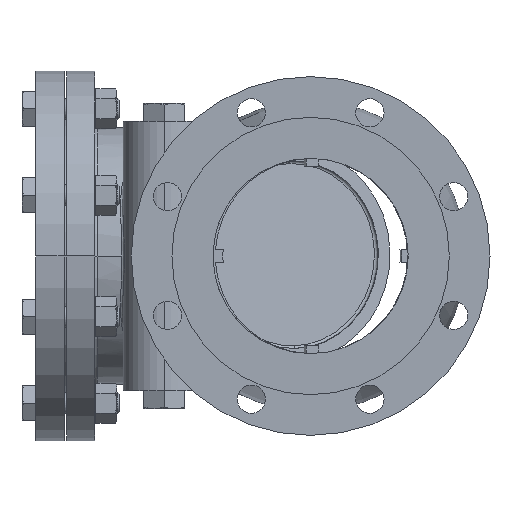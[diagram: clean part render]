
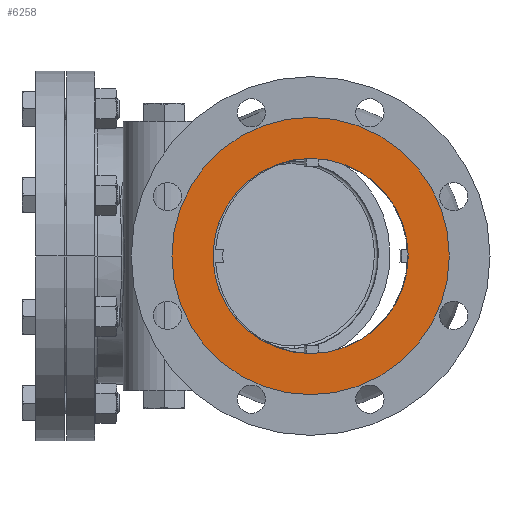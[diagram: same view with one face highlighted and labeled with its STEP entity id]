
A CAD part, left-side view. The second image highlights one B-rep face of the part: STEP entity #6258.
In plain terms, the highlighted planar face has unit normal (-1, 0, 0).
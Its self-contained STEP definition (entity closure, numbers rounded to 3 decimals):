
#113 = CARTESIAN_POINT ( 'NONE',  ( -178., 0., 0. ) ) ;
#368 = AXIS2_PLACEMENT_3D ( 'NONE', #113, #9768, #1510 ) ;
#386 = FACE_BOUND ( 'NONE', #12945, .T. ) ;
#1162 = CARTESIAN_POINT ( 'NONE',  ( -178., 0., -76. ) ) ;
#1510 = DIRECTION ( 'NONE',  ( 0., 0., 1. ) ) ;
#1721 = ORIENTED_EDGE ( 'NONE', *, *, #4064, .T. ) ;
#1831 = CARTESIAN_POINT ( 'NONE',  ( -178., 0., 108. ) ) ;
#2587 = VERTEX_POINT ( 'NONE', #1831 ) ;
#3392 = CARTESIAN_POINT ( 'NONE',  ( -178., 0., 0. ) ) ;
#4046 = FACE_OUTER_BOUND ( 'NONE', #14483, .T. ) ;
#4064 = EDGE_CURVE ( 'NONE', #6164, #2587, #7770, .T. ) ;
#4796 = DIRECTION ( 'NONE',  ( 0., 0., 1. ) ) ;
#4934 = CIRCLE ( 'NONE', #8406, 76. ) ;
#5717 = CARTESIAN_POINT ( 'NONE',  ( -178., 0., 0. ) ) ;
#5753 = AXIS2_PLACEMENT_3D ( 'NONE', #5717, #15339, #7123 ) ;
#5943 = CARTESIAN_POINT ( 'NONE',  ( -178., 0., -108. ) ) ;
#6164 = VERTEX_POINT ( 'NONE', #5943 ) ;
#6258 = ADVANCED_FACE ( 'NONE', ( #4046, #386 ), #14779, .T. ) ;
#6404 = AXIS2_PLACEMENT_3D ( 'NONE', #3392, #13038, #4796 ) ;
#6646 = CARTESIAN_POINT ( 'NONE',  ( -178., 0., 0. ) ) ;
#7123 = DIRECTION ( 'NONE',  ( 0., 0., 1. ) ) ;
#7770 = CIRCLE ( 'NONE', #5753, 108. ) ;
#8045 = DIRECTION ( 'NONE',  ( 0., 0., 1. ) ) ;
#8096 = ORIENTED_EDGE ( 'NONE', *, *, #15380, .T. ) ;
#8406 = AXIS2_PLACEMENT_3D ( 'NONE', #6646, #16262, #8045 ) ;
#8905 = AXIS2_PLACEMENT_3D ( 'NONE', #11445, #11576, #17046 ) ;
#8964 = ORIENTED_EDGE ( 'NONE', *, *, #17017, .F. ) ;
#9768 = DIRECTION ( 'NONE',  ( -1., 0., 0. ) ) ;
#10326 = CARTESIAN_POINT ( 'NONE',  ( -178., 0., 76. ) ) ;
#11445 = CARTESIAN_POINT ( 'NONE',  ( -178., -76., 0. ) ) ;
#11576 = DIRECTION ( 'NONE',  ( -1., 0., 0. ) ) ;
#11710 = EDGE_CURVE ( 'NONE', #16761, #15835, #14703, .T. ) ;
#12945 = EDGE_LOOP ( 'NONE', ( #16794, #8964 ) ) ;
#13038 = DIRECTION ( 'NONE',  ( -1., 0., 0. ) ) ;
#13148 = CIRCLE ( 'NONE', #6404, 108. ) ;
#14483 = EDGE_LOOP ( 'NONE', ( #8096, #1721 ) ) ;
#14703 = CIRCLE ( 'NONE', #368, 76. ) ;
#14779 = PLANE ( 'NONE',  #8905 ) ;
#15339 = DIRECTION ( 'NONE',  ( -1., 0., 0. ) ) ;
#15380 = EDGE_CURVE ( 'NONE', #2587, #6164, #13148, .T. ) ;
#15835 = VERTEX_POINT ( 'NONE', #1162 ) ;
#16262 = DIRECTION ( 'NONE',  ( -1., 0., 0. ) ) ;
#16761 = VERTEX_POINT ( 'NONE', #10326 ) ;
#16794 = ORIENTED_EDGE ( 'NONE', *, *, #11710, .F. ) ;
#17017 = EDGE_CURVE ( 'NONE', #15835, #16761, #4934, .T. ) ;
#17046 = DIRECTION ( 'NONE',  ( 0., 0., 1. ) ) ;
